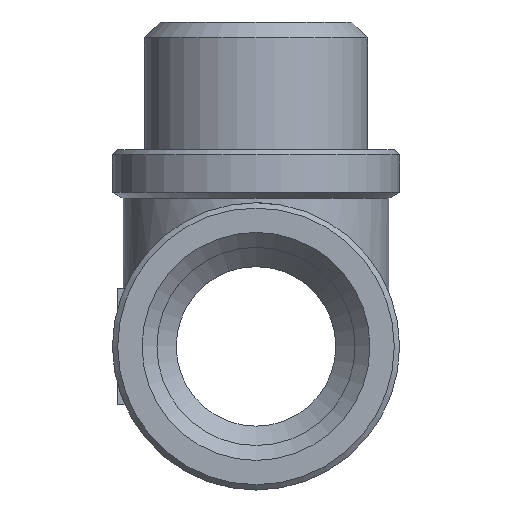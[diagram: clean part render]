
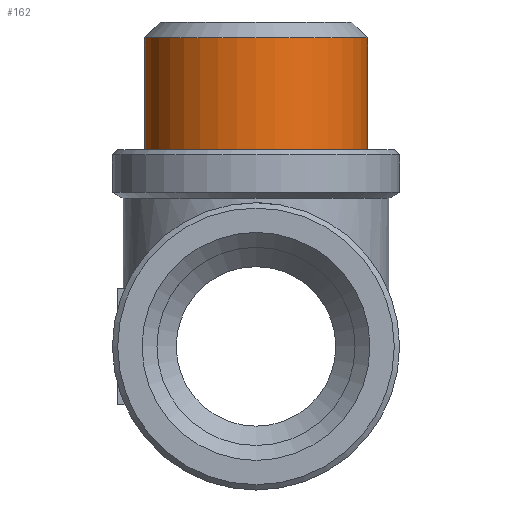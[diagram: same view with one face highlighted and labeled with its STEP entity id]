
A CAD part, front view. The second image highlights one B-rep face of the part: STEP entity #162.
In plain terms, the highlighted cylindrical face has radius 10.5 mm (diameter 21 mm), a full revolution.
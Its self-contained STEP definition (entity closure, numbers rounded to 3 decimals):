
#162=ADVANCED_FACE('',(#1603,#1605),#1607,.T.);
#1603=FACE_OUTER_BOUND('',#1604,.T.);
#1604=EDGE_LOOP('',(#2543));
#1605=FACE_OUTER_BOUND('',#1606,.T.);
#1606=EDGE_LOOP('',(#2544));
#1607=CYLINDRICAL_SURFACE('',#1608,10.5);
#1608=AXIS2_PLACEMENT_3D('',#1609,#1610,#1611);
#1609=CARTESIAN_POINT('',(0.,0.,18.5));
#1610=DIRECTION('',(0.,0.,-1.));
#1611=DIRECTION('',(0.,1.,0.));
#2543=ORIENTED_EDGE('',*,*,#2911,.F.);
#2544=ORIENTED_EDGE('',*,*,#2908,.F.);
#2908=EDGE_CURVE('',#3469,#3469,#3470,.T.);
#2911=EDGE_CURVE('',#3475,#3475,#3476,.F.);
#3469=VERTEX_POINT('',#6043);
#3470=CIRCLE('',#6044,10.5);
#3475=VERTEX_POINT('',#6058);
#3476=CIRCLE('',#6059,10.5);
#6043=CARTESIAN_POINT('',(0.,10.5,18.5));
#6044=AXIS2_PLACEMENT_3D('',#6045,#6046,#6047);
#6045=CARTESIAN_POINT('',(0.,0.,18.5));
#6046=DIRECTION('',(0.,0.,-1.));
#6047=DIRECTION('',(0.,1.,0.));
#6058=CARTESIAN_POINT('',(0.,10.5,29.));
#6059=AXIS2_PLACEMENT_3D('',#6060,#6061,#6062);
#6060=CARTESIAN_POINT('',(0.,0.,29.));
#6061=DIRECTION('',(0.,0.,-1.));
#6062=DIRECTION('',(0.,1.,0.));
